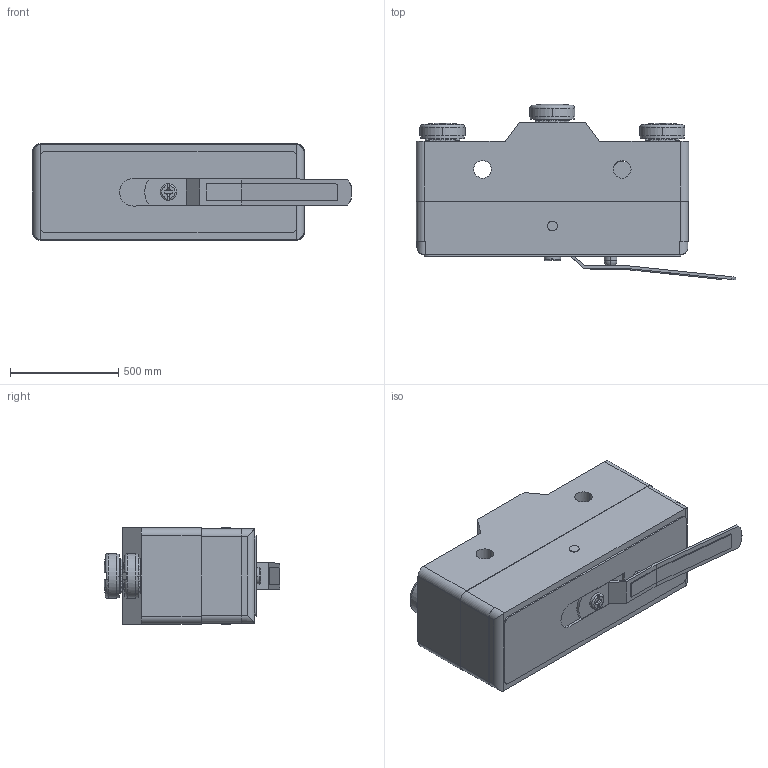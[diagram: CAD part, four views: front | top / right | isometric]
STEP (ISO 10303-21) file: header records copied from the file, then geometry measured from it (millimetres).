
FILE_DESCRIPTION((''),'2;1');
FILE_NAME('ASM0008_ASM','2016-08-15T',('ABS'),(''),'PRO/ENGINEER BY PARAMETRIC TECHNOLOGY CORPORATION, 2012360','PRO/ENGINEER BY PARAMETRIC TECHNOLOGY CORPORATION, 2012360','');
FILE_SCHEMA(('CONFIG_CONTROL_DESIGN'));
Products named in the file (1): ASM0008_ASM
Bounding box: 1477.8 x 812.53 x 447.04 mm (x, y, z)
Volume: 243800190.4 mm3; surface area: 6487110.6 mm2
Topology: 1 solids, 14 shells, 989 faces, 2813 edges, 1859 vertices
Faces by surface type: cylinder 583, plane 273, bspline 77, torus 38, sphere 17, cone 1
Entity records: 44940 total; most frequent: CARTESIAN_POINT 20337, ORIENTED_EDGE 5606, DIRECTION 4563, EDGE_CURVE 2803, VERTEX_POINT 1859, AXIS2_PLACEMENT_3D 1708, VECTOR 1147, LINE 1147
